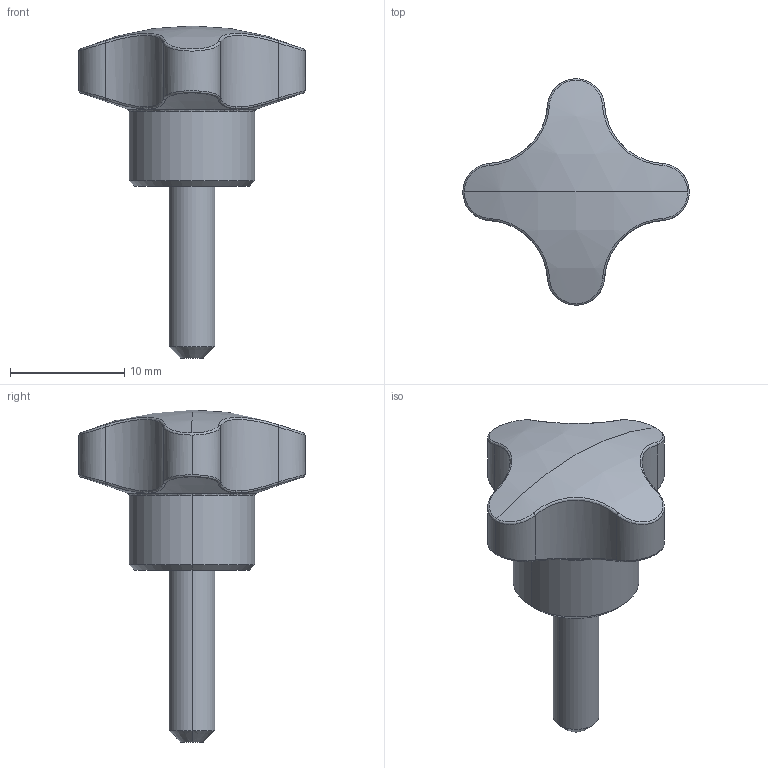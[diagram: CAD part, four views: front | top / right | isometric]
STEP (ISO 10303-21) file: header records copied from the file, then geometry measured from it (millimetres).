
FILE_DESCRIPTION (( 'STEP AP214' ), '1' );
FILE_NAME ('1121 20 501.STEP', '2010-11-26T15:36:48', ( 'Marc' ), ( '' ), 'SwSTEP 2.0', 'SolidWorks 2010', '' );
FILE_SCHEMA (( 'AUTOMOTIVE_DESIGN' ));
Length unit declared in the file: millimetre
Products named in the file (1): 1121 20 501
Bounding box: 19.77 x 19.77 x 29 mm (x, y, z)
Volume: 2092.1 mm3; surface area: 1247 mm2
Topology: 2 solids, 2 shells, 63 faces, 137 edges, 80 vertices
Faces by surface type: bspline 24, cylinder 17, cone 9, torus 6, plane 5, sphere 2
Entity records: 6543 total; most frequent: CARTESIAN_POINT 5082, ORIENTED_EDGE 274, DIRECTION 226, EDGE_CURVE 137, AXIS2_PLACEMENT_3D 102, VERTEX_POINT 80, EDGE_LOOP 65, ADVANCED_FACE 63
